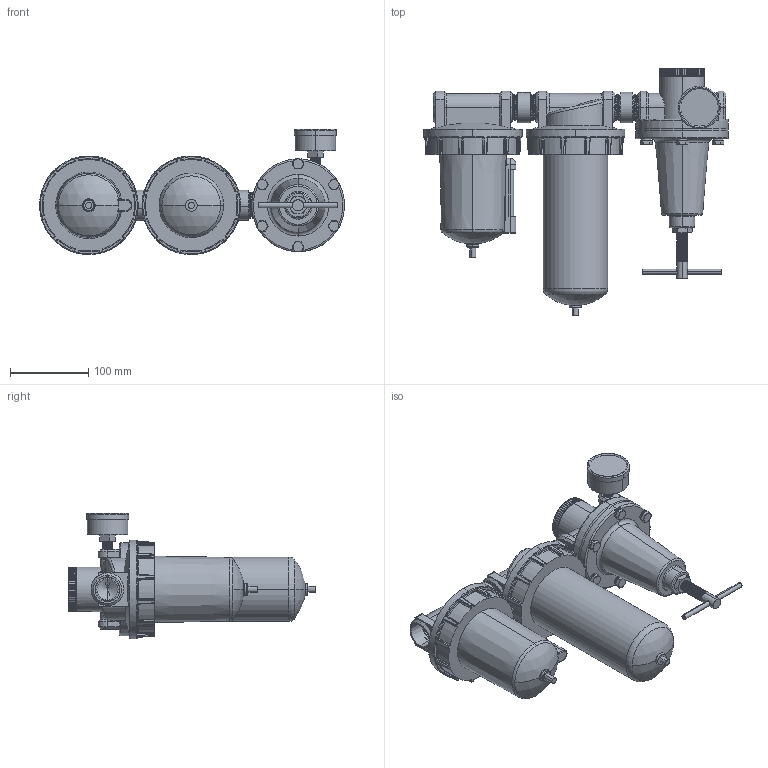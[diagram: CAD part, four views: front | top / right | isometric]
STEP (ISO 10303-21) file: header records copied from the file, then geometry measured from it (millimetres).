
FILE_DESCRIPTION (( 'STEP AP203' ), '1' );
FILE_NAME ('C728#W#-08YB#.STEP', '2016-02-16T03:37:03', ( '' ), ( '' ), 'SwSTEP 2.0', 'SolidWorks 2014', '' );
FILE_SCHEMA (( 'CONFIG_CONTROL_DESIGN' ));
Length unit declared in the file: millimetre
Products named in the file (21): 50-P-AD=1-4PT.SLDPRT; F602W-08; ISO 4014 - M8; H604D-06-2; 50-P-AD=1-4PT-2; R119-06-5; R119-06-4; C728#W#-08YB#; L606-W-06-5; L606-W-06-2; H604D-08YB#; R119-06-1; R119-08-3; F602W-08#YB#; R119-06-2; 50-P-AD=1-4PT-1; H604D-08-1; R119-06-7; R119-06-6
Assembly tree (27 placements, depth 4):
  C728#W#-08YB#
    F602W-08#YB#
      F602W-08
      L606-W-06-2
      L606-W-06-5
    H604D-08YB#
      H604D-08-1
      H604D-06-2
      L606-W-06-5
    (unnamed)  x2
    (unnamed)
      R119-06-1
      R119-06-2
      R119-08-3
      R119-06-4
      R119-06-5
      R119-06-6
      ISO 4014 - M8  x6
      R119-06-7
      50-P-AD=1-4PT.SLDPRT
        50-P-AD=1-4PT-1
        50-P-AD=1-4PT-2
Bounding box: 389.75 x 316 x 160 mm (x, y, z)
Volume: 3612279.6 mm3; surface area: 383883.1 mm2
Topology: 24 solids, 24 shells, 1553 faces, 3770 edges, 2218 vertices
Faces by surface type: plane 458, cylinder 365, cone 348, bspline 229, torus 96, sphere 57
Entity records: 62293 total; most frequent: CARTESIAN_POINT 31455, ORIENTED_EDGE 6440, DIRECTION 5467, EDGE_CURVE 3220, AXIS2_PLACEMENT_3D 2298, VERTEX_POINT 1935, EDGE_LOOP 1381, FACE_OUTER_BOUND 1342
